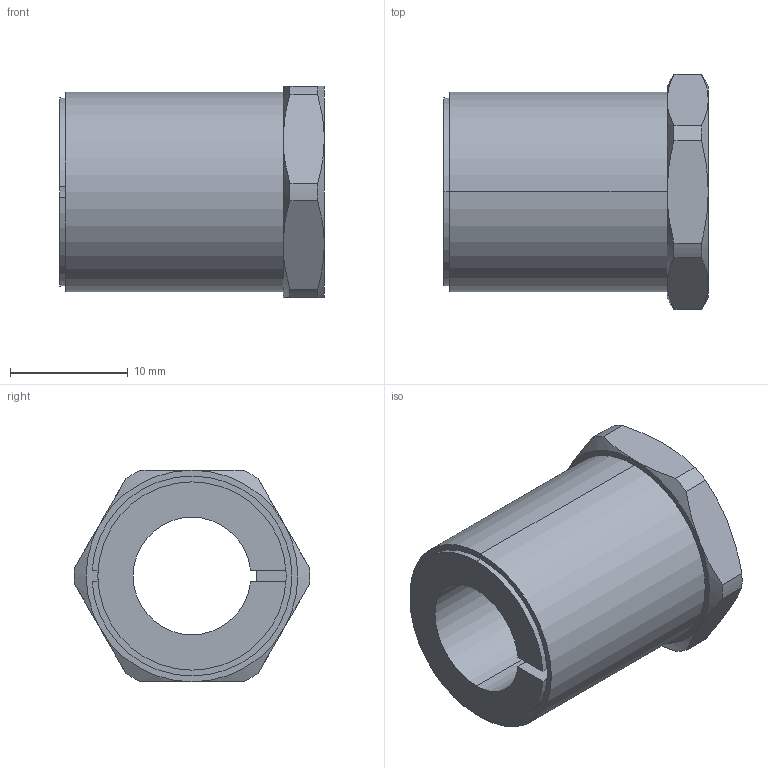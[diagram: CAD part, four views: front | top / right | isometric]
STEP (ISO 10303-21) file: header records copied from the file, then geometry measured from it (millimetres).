
FILE_DESCRIPTION (( 'STEP AP203' ), '1' );
FILE_NAME ('KBS 57 - 10 x 17.STEP', '2015-07-05T18:32:19', ( '' ), ( '' ), 'SwSTEP 2.0', 'SolidWorks 2010', '' );
FILE_SCHEMA (( 'CONFIG_CONTROL_DESIGN' ));
Length unit declared in the file: millimetre
Products named in the file (1): KBS 57 - 10 x 17
Bounding box: 22.5 x 19.99 x 18 mm (x, y, z)
Volume: 3414.4 mm3; surface area: 2462.9 mm2
Topology: 1 solids, 1 shells, 47 faces, 118 edges, 74 vertices
Faces by surface type: cylinder 16, plane 16, cone 15
Entity records: 1589 total; most frequent: CARTESIAN_POINT 388, DIRECTION 240, ORIENTED_EDGE 236, EDGE_CURVE 118, AXIS2_PLACEMENT_3D 100, VERTEX_POINT 74, CIRCLE 52, EDGE_LOOP 50
